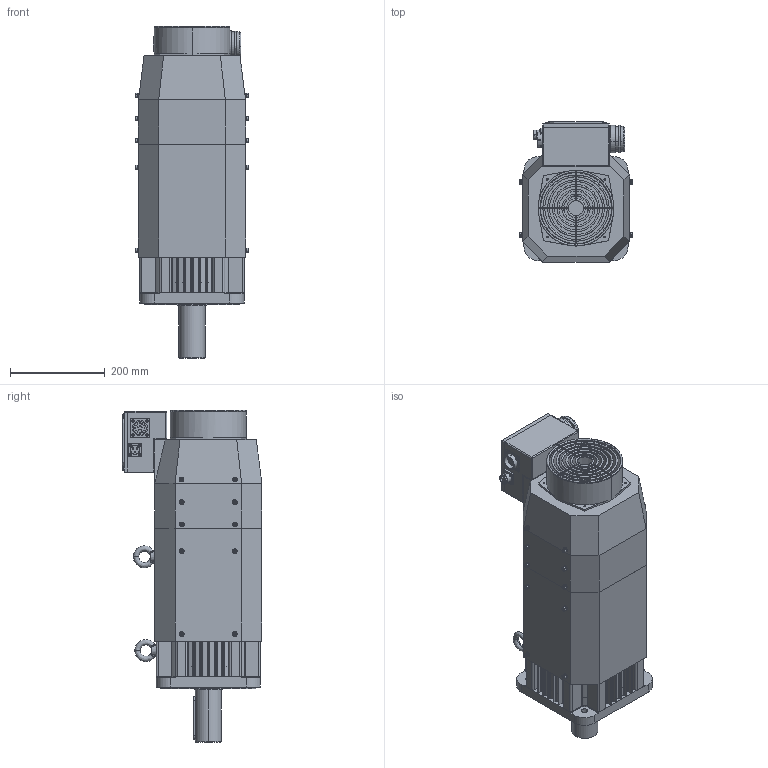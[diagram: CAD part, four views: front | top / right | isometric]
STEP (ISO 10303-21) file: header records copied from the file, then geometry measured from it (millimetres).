
FILE_DESCRIPTION (( 'STEP AP203' ), '1' );
FILE_NAME ('EMB-1ED(湍惕掅).STEP', '2020-04-17T09:41:32', ( '' ), ( '' ), 'SwSTEP 2.0', 'SolidWorks 2018', '' );
FILE_SCHEMA (( 'CONFIG_CONTROL_DESIGN' ));
Products named in the file (1): EMB-1ED(湍惕掅)
Bounding box: 240.6 x 295 x 701 mm (x, y, z)
Volume: 15308690.9 mm3; surface area: 1836504.4 mm2
Topology: 108 solids, 109 shells, 2564 faces, 6161 edges, 3846 vertices
Faces by surface type: plane 1144, cylinder 956, cone 234, bspline 146, torus 76, sphere 8
Entity records: 81341 total; most frequent: CARTESIAN_POINT 21270, DIRECTION 13046, ORIENTED_EDGE 12050, EDGE_CURVE 6025, AXIS2_PLACEMENT_3D 5020, VERTEX_POINT 3846, VECTOR 3006, LINE 3006
